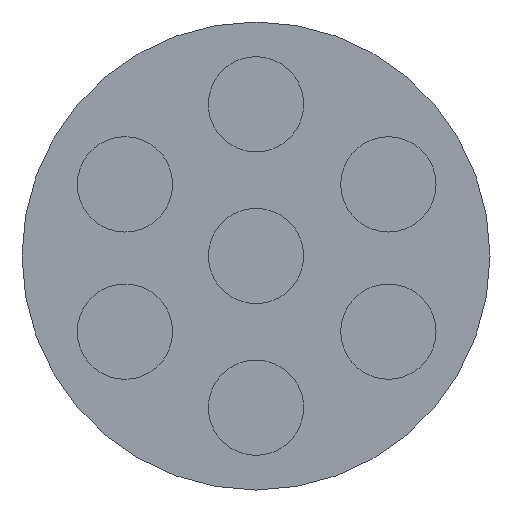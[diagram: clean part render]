
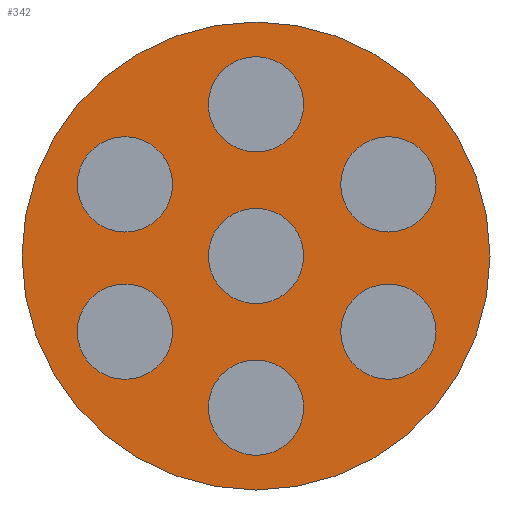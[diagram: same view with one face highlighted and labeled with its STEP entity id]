
A CAD part, front view. The second image highlights one B-rep face of the part: STEP entity #342.
In plain terms, the highlighted planar face has unit normal (0, -1, 0).
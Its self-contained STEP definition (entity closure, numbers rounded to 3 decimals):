
#1=CARTESIAN_POINT('',(0.,0.,0.));
#2=DIRECTION('',(0.,1.,0.));
#3=DIRECTION('',(1.,0.,0.));
#4=AXIS2_PLACEMENT_3D('',#1,#2,#3);
#6=CARTESIAN_POINT('',(0.,0.,0.));
#7=DIRECTION('',(0.,1.,0.));
#8=DIRECTION('',(-1.,0.,0.));
#9=AXIS2_PLACEMENT_3D('',#6,#7,#8);
#11=CARTESIAN_POINT('',(0.,0.,-1.747));
#12=DIRECTION('',(0.,-1.,0.));
#13=DIRECTION('',(-1.,0.,0.));
#14=AXIS2_PLACEMENT_3D('',#11,#12,#13);
#16=CARTESIAN_POINT('',(0.,0.,-1.747));
#17=DIRECTION('',(0.,-1.,0.));
#18=DIRECTION('',(1.,0.,0.));
#19=AXIS2_PLACEMENT_3D('',#16,#17,#18);
#21=CARTESIAN_POINT('',(0.,0.,0.));
#22=DIRECTION('',(0.,-1.,0.));
#23=DIRECTION('',(-1.,0.,0.));
#24=AXIS2_PLACEMENT_3D('',#21,#22,#23);
#26=CARTESIAN_POINT('',(0.,0.,0.));
#27=DIRECTION('',(0.,-1.,0.));
#28=DIRECTION('',(1.,0.,0.));
#29=AXIS2_PLACEMENT_3D('',#26,#27,#28);
#31=CARTESIAN_POINT('',(-1.513,0.,-0.873));
#32=DIRECTION('',(0.,-1.,0.));
#33=DIRECTION('',(-1.,0.,0.));
#34=AXIS2_PLACEMENT_3D('',#31,#32,#33);
#36=CARTESIAN_POINT('',(-1.513,0.,-0.873));
#37=DIRECTION('',(0.,-1.,0.));
#38=DIRECTION('',(1.,0.,0.));
#39=AXIS2_PLACEMENT_3D('',#36,#37,#38);
#41=CARTESIAN_POINT('',(1.513,0.,-0.873));
#42=DIRECTION('',(0.,-1.,0.));
#43=DIRECTION('',(-1.,0.,0.));
#44=AXIS2_PLACEMENT_3D('',#41,#42,#43);
#46=CARTESIAN_POINT('',(1.513,0.,-0.873));
#47=DIRECTION('',(0.,-1.,0.));
#48=DIRECTION('',(1.,0.,0.));
#49=AXIS2_PLACEMENT_3D('',#46,#47,#48);
#51=CARTESIAN_POINT('',(0.,0.,1.747));
#52=DIRECTION('',(0.,-1.,0.));
#53=DIRECTION('',(-1.,0.,0.));
#54=AXIS2_PLACEMENT_3D('',#51,#52,#53);
#56=CARTESIAN_POINT('',(0.,0.,1.747));
#57=DIRECTION('',(0.,-1.,0.));
#58=DIRECTION('',(1.,0.,0.));
#59=AXIS2_PLACEMENT_3D('',#56,#57,#58);
#61=CARTESIAN_POINT('',(-1.513,0.,0.873));
#62=DIRECTION('',(0.,-1.,0.));
#63=DIRECTION('',(-1.,0.,0.));
#64=AXIS2_PLACEMENT_3D('',#61,#62,#63);
#66=CARTESIAN_POINT('',(-1.513,0.,0.873));
#67=DIRECTION('',(0.,-1.,0.));
#68=DIRECTION('',(1.,0.,0.));
#69=AXIS2_PLACEMENT_3D('',#66,#67,#68);
#71=CARTESIAN_POINT('',(1.513,0.,0.873));
#72=DIRECTION('',(0.,-1.,0.));
#73=DIRECTION('',(-1.,0.,0.));
#74=AXIS2_PLACEMENT_3D('',#71,#72,#73);
#76=CARTESIAN_POINT('',(1.513,0.,0.873));
#77=DIRECTION('',(0.,-1.,0.));
#78=DIRECTION('',(1.,0.,0.));
#79=AXIS2_PLACEMENT_3D('',#76,#77,#78);
#225=CARTESIAN_POINT('',(2.7,0.,0.));
#226=CARTESIAN_POINT('',(-2.7,0.,0.));
#227=VERTEX_POINT('',#225);
#228=VERTEX_POINT('',#226);
#229=CARTESIAN_POINT('',(-0.5,0.,-1.747));
#230=CARTESIAN_POINT('',(0.5,0.,-1.747));
#231=VERTEX_POINT('',#229);
#232=VERTEX_POINT('',#230);
#233=CARTESIAN_POINT('',(-0.5,0.,0.));
#234=CARTESIAN_POINT('',(0.5,0.,0.));
#235=VERTEX_POINT('',#233);
#236=VERTEX_POINT('',#234);
#237=CARTESIAN_POINT('',(-2.013,0.,-0.873));
#238=CARTESIAN_POINT('',(-1.013,0.,-0.873));
#239=VERTEX_POINT('',#237);
#240=VERTEX_POINT('',#238);
#241=CARTESIAN_POINT('',(1.013,0.,-0.873));
#242=CARTESIAN_POINT('',(2.013,0.,-0.873));
#243=VERTEX_POINT('',#241);
#244=VERTEX_POINT('',#242);
#245=CARTESIAN_POINT('',(-0.5,0.,1.747));
#246=CARTESIAN_POINT('',(0.5,0.,1.747));
#247=VERTEX_POINT('',#245);
#248=VERTEX_POINT('',#246);
#249=CARTESIAN_POINT('',(-2.013,0.,0.873));
#250=CARTESIAN_POINT('',(-1.013,0.,0.873));
#251=VERTEX_POINT('',#249);
#252=VERTEX_POINT('',#250);
#253=CARTESIAN_POINT('',(1.013,0.,0.873));
#254=CARTESIAN_POINT('',(2.013,0.,0.873));
#255=VERTEX_POINT('',#253);
#256=VERTEX_POINT('',#254);
#289=CARTESIAN_POINT('',(0.,0.,0.));
#290=DIRECTION('',(0.,1.,0.));
#291=DIRECTION('',(1.,0.,0.));
#292=AXIS2_PLACEMENT_3D('',#289,#290,#291);
#293=PLANE('',#292);
#295=ORIENTED_EDGE('',*,*,#294,.T.);
#297=ORIENTED_EDGE('',*,*,#296,.T.);
#298=EDGE_LOOP('',(#295,#297));
#299=FACE_OUTER_BOUND('',#298,.F.);
#301=ORIENTED_EDGE('',*,*,#300,.T.);
#303=ORIENTED_EDGE('',*,*,#302,.T.);
#304=EDGE_LOOP('',(#301,#303));
#305=FACE_BOUND('',#304,.F.);
#307=ORIENTED_EDGE('',*,*,#306,.T.);
#309=ORIENTED_EDGE('',*,*,#308,.T.);
#310=EDGE_LOOP('',(#307,#309));
#311=FACE_BOUND('',#310,.F.);
#313=ORIENTED_EDGE('',*,*,#312,.T.);
#315=ORIENTED_EDGE('',*,*,#314,.T.);
#316=EDGE_LOOP('',(#313,#315));
#317=FACE_BOUND('',#316,.F.);
#319=ORIENTED_EDGE('',*,*,#318,.T.);
#321=ORIENTED_EDGE('',*,*,#320,.T.);
#322=EDGE_LOOP('',(#319,#321));
#323=FACE_BOUND('',#322,.F.);
#325=ORIENTED_EDGE('',*,*,#324,.T.);
#327=ORIENTED_EDGE('',*,*,#326,.T.);
#328=EDGE_LOOP('',(#325,#327));
#329=FACE_BOUND('',#328,.F.);
#331=ORIENTED_EDGE('',*,*,#330,.T.);
#333=ORIENTED_EDGE('',*,*,#332,.T.);
#334=EDGE_LOOP('',(#331,#333));
#335=FACE_BOUND('',#334,.F.);
#337=ORIENTED_EDGE('',*,*,#336,.T.);
#339=ORIENTED_EDGE('',*,*,#338,.T.);
#340=EDGE_LOOP('',(#337,#339));
#341=FACE_BOUND('',#340,.F.);
#342=ADVANCED_FACE('',(#299,#305,#311,#317,#323,#329,#335,#341),#293,.F.);
#5=CIRCLE('',#4,2.7);
#10=CIRCLE('',#9,2.7);
#15=CIRCLE('',#14,0.5);
#20=CIRCLE('',#19,0.5);
#25=CIRCLE('',#24,0.5);
#30=CIRCLE('',#29,0.5);
#35=CIRCLE('',#34,0.5);
#40=CIRCLE('',#39,0.5);
#45=CIRCLE('',#44,0.5);
#50=CIRCLE('',#49,0.5);
#55=CIRCLE('',#54,0.5);
#60=CIRCLE('',#59,0.5);
#65=CIRCLE('',#64,0.5);
#70=CIRCLE('',#69,0.5);
#75=CIRCLE('',#74,0.5);
#80=CIRCLE('',#79,0.5);
#294=EDGE_CURVE('',#227,#228,#5,.T.);
#296=EDGE_CURVE('',#228,#227,#10,.T.);
#300=EDGE_CURVE('',#231,#232,#15,.T.);
#302=EDGE_CURVE('',#232,#231,#20,.T.);
#306=EDGE_CURVE('',#235,#236,#25,.T.);
#308=EDGE_CURVE('',#236,#235,#30,.T.);
#312=EDGE_CURVE('',#239,#240,#35,.T.);
#314=EDGE_CURVE('',#240,#239,#40,.T.);
#318=EDGE_CURVE('',#243,#244,#45,.T.);
#320=EDGE_CURVE('',#244,#243,#50,.T.);
#324=EDGE_CURVE('',#247,#248,#55,.T.);
#326=EDGE_CURVE('',#248,#247,#60,.T.);
#330=EDGE_CURVE('',#251,#252,#65,.T.);
#332=EDGE_CURVE('',#252,#251,#70,.T.);
#336=EDGE_CURVE('',#255,#256,#75,.T.);
#338=EDGE_CURVE('',#256,#255,#80,.T.);
